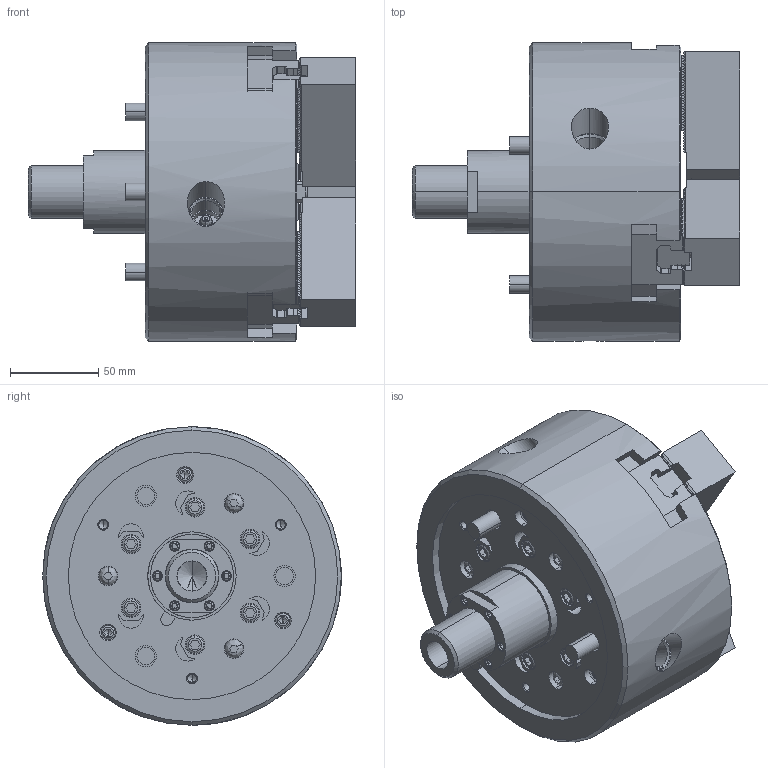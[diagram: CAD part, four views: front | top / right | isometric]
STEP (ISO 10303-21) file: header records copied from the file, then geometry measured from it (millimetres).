
FILE_DESCRIPTION (( 'STEP AP214' ), '1' );
FILE_NAME ('ML06_61P245442-6_OC.STEP', '2020-04-01T06:27:46', ( '' ), ( '' ), 'SwSTEP 2.0', 'SolidWorks 2017', '' );
FILE_SCHEMA (( 'AUTOMOTIVE_DESIGN' ));
Length unit declared in the file: millimetre
Products named in the file (5): ML06_BASE^61P245442_ML06; Bアナツキ M10×25; 61P302540_SOFT JAW; 61P447483_T NUT; ML06_61P245442-6_OC
Assembly tree (13 placements, depth 2):
  ML06_61P245442-6_OC
    61P447483_T NUT  x3
    61P302540_SOFT JAW  x3
    Bアナツキ M10×25  x6
    ML06_BASE^61P245442_ML06
Bounding box: 185.2 x 169 x 169 mm (x, y, z)
Volume: 202283.6 mm3; surface area: 232649.2 mm2
Topology: 12 solids, 19 shells, 2669 faces, 7268 edges, 4748 vertices
Faces by surface type: plane 2088, cylinder 281, cone 151, bspline 149
Entity records: 70824 total; most frequent: CARTESIAN_POINT 17327, ORIENTED_EDGE 10747, DIRECTION 9437, EDGE_CURVE 5375, LINE 4289, VECTOR 4289, VERTEX_POINT 3513, AXIS2_PLACEMENT_3D 2574
